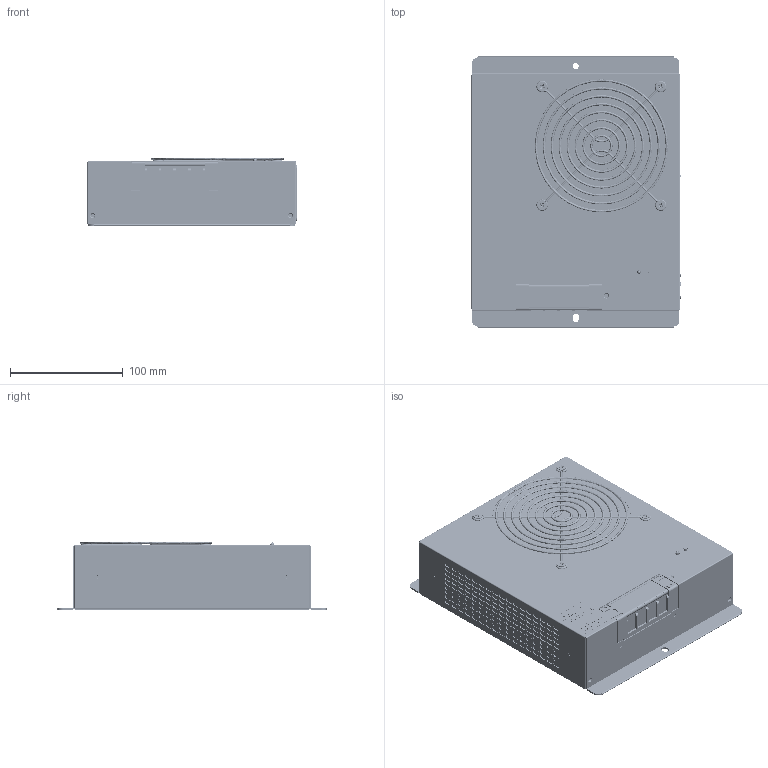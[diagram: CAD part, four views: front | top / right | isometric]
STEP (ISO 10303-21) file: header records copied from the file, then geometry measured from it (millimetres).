
FILE_DESCRIPTION (( 'STEP AP214' ), '1' );
FILE_NAME ('heh100pa.STEP', '2015-10-02T03:29:37', ( '' ), ( '' ), 'SwSTEP 2.0', 'SolidWorks 2013', '' );
FILE_SCHEMA (( 'AUTOMOTIVE_DESIGN' ));
Length unit declared in the file: millimetre
Products named in the file (1): heh100pa
Bounding box: 185.5 x 240 x 60.76 mm (x, y, z)
Surface area: 617773.7 mm2 (no closed solid volume)
Topology: 0 solids, 409 shells, 3424 faces, 17268 edges, 13823 vertices
Faces by surface type: plane 2032, cylinder 764, bspline 519, cone 89, torus 20
Entity records: 327014 total; most frequent: CARTESIAN_POINT 163378, ORIENTED_EDGE 23819, DIRECTION 21179, EDGE_CURVE 17249, VERTEX_POINT 13823, LINE 10955, VECTOR 10955, AXIS2_PLACEMENT_3D 5112
